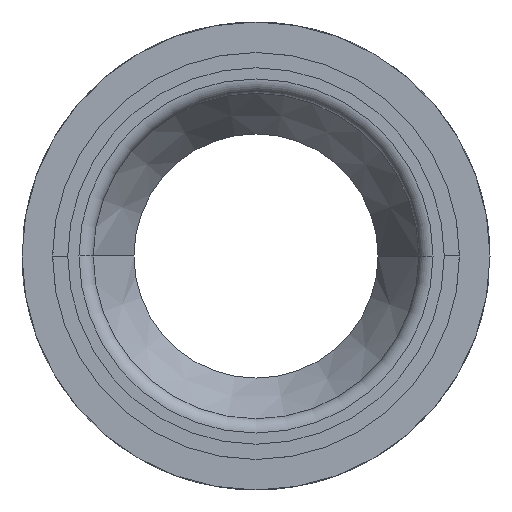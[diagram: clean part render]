
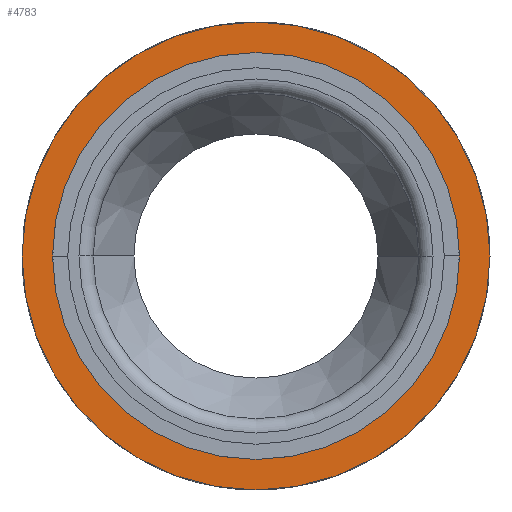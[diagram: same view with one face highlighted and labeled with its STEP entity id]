
A CAD part, front view. The second image highlights one B-rep face of the part: STEP entity #4783.
In plain terms, the highlighted planar face has unit normal (0, -1, 0).
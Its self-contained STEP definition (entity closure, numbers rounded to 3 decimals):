
#1133 = CARTESIAN_POINT ( 'NONE',  ( 6963.84, 2311.78, 0. ) ) ;
#1135 = CIRCLE ( 'NONE', #1167, 9.25 ) ;
#1162 = DIRECTION ( 'NONE',  ( 1., 0., 0. ) ) ;
#1163 = DIRECTION ( 'NONE',  ( 0., -1., 0. ) ) ;
#1164 = CARTESIAN_POINT ( 'NONE',  ( 6973.09, 2311.78, 0. ) ) ;
#1167 = AXIS2_PLACEMENT_3D ( 'NONE', #1164, #1163, #1162 ) ;
#1474 = DIRECTION ( 'NONE',  ( 1., 0., 0. ) ) ;
#1475 = DIRECTION ( 'NONE',  ( 0., -1., 0. ) ) ;
#1476 = CARTESIAN_POINT ( 'NONE',  ( 6973.09, 2311.78, 0. ) ) ;
#1477 = AXIS2_PLACEMENT_3D ( 'NONE', #1476, #1475, #1474 ) ;
#1482 = CIRCLE ( 'NONE', #1477, 11.5 ) ;
#1483 = DIRECTION ( 'NONE',  ( 1., 0., 0. ) ) ;
#1484 = DIRECTION ( 'NONE',  ( 0., -1., 0. ) ) ;
#1485 = AXIS2_PLACEMENT_3D ( 'NONE', #1493, #1484, #1483 ) ;
#1487 = CARTESIAN_POINT ( 'NONE',  ( 6984.59, 2311.78, 0. ) ) ;
#1493 = CARTESIAN_POINT ( 'NONE',  ( 6973.09, 2311.78, 0. ) ) ;
#1499 = CIRCLE ( 'NONE', #1485, 11.5 ) ;
#1510 = CARTESIAN_POINT ( 'NONE',  ( 6961.59, 2311.78, 0. ) ) ;
#1835 = CARTESIAN_POINT ( 'NONE',  ( 6982.34, 2311.78, 0. ) ) ;
#2803 = DIRECTION ( 'NONE',  ( 1., 0., 0. ) ) ;
#2804 = DIRECTION ( 'NONE',  ( 0., -1., 0. ) ) ;
#2805 = CARTESIAN_POINT ( 'NONE',  ( 6973.09, 2311.78, 0. ) ) ;
#2806 = AXIS2_PLACEMENT_3D ( 'NONE', #2805, #2804, #2803 ) ;
#2808 = CIRCLE ( 'NONE', #2806, 9.25 ) ;
#2897 = DIRECTION ( 'NONE',  ( -1., 0., 0. ) ) ;
#2898 = DIRECTION ( 'NONE',  ( 0., 1., 0. ) ) ;
#2899 = CARTESIAN_POINT ( 'NONE',  ( 6961.59, 2311.78, 0. ) ) ;
#2907 = AXIS2_PLACEMENT_3D ( 'NONE', #2899, #2898, #2897 ) ;
#2910 = PLANE ( 'NONE',  #2907 ) ;
#2912 = FACE_OUTER_BOUND ( 'NONE', #4760, .T. ) ;
#2913 = FACE_BOUND ( 'NONE', #4781, .T. ) ;
#3702 = VERTEX_POINT ( 'NONE', #1133 ) ;
#3711 = EDGE_CURVE ( 'NONE', #4077, #3702, #1135, .T. ) ;
#3887 = EDGE_CURVE ( 'NONE', #3909, #3892, #1499, .T. ) ;
#3892 = VERTEX_POINT ( 'NONE', #1487 ) ;
#3895 = EDGE_CURVE ( 'NONE', #3892, #3909, #1482, .T. ) ;
#3909 = VERTEX_POINT ( 'NONE', #1510 ) ;
#4077 = VERTEX_POINT ( 'NONE', #1835 ) ;
#4655 = EDGE_CURVE ( 'NONE', #3702, #4077, #2808, .T. ) ;
#4754 = ORIENTED_EDGE ( 'NONE', *, *, #3711, .F. ) ;
#4759 = ORIENTED_EDGE ( 'NONE', *, *, #4655, .F. ) ;
#4760 = EDGE_LOOP ( 'NONE', ( #4810, #4889 ) ) ;
#4781 = EDGE_LOOP ( 'NONE', ( #4754, #4759 ) ) ;
#4783 = ADVANCED_FACE ( 'NONE', ( #2913, #2912 ), #2910, .F. ) ;
#4810 = ORIENTED_EDGE ( 'NONE', *, *, #3895, .T. ) ;
#4889 = ORIENTED_EDGE ( 'NONE', *, *, #3887, .T. ) ;
